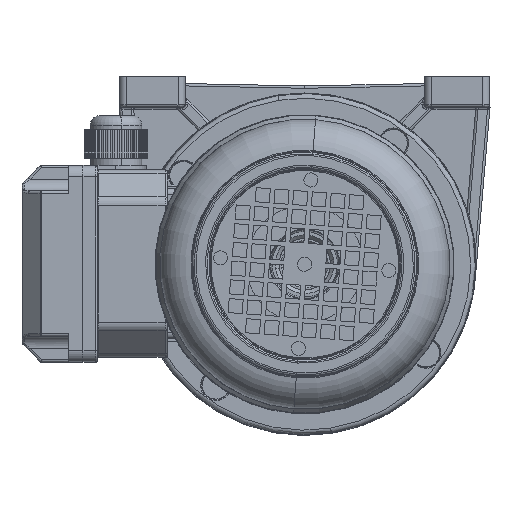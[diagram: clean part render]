
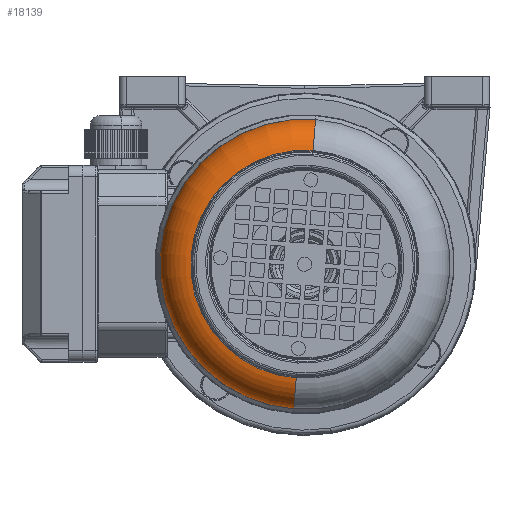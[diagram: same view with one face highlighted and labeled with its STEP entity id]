
A CAD part, front view. The second image highlights one B-rep face of the part: STEP entity #18139.
In plain terms, the highlighted toroidal (fillet/blend) face has major radius 46.75 mm and minor radius 15 mm.
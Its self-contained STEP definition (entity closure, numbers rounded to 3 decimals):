
#541 = EDGE_CURVE ( 'NONE', #35643, #96208, #33922, .T. ) ;
#1495 = VERTEX_POINT ( 'NONE', #9103 ) ;
#2971 = CARTESIAN_POINT ( 'NONE',  ( 11407.538, -26592.948, 48.591 ) ) ;
#7639 = AXIS2_PLACEMENT_3D ( 'NONE', #96935, #29114, #59288 ) ;
#8592 = CARTESIAN_POINT ( 'NONE',  ( 11392.652, -26592.948, -61.75 ) ) ;
#9103 = CARTESIAN_POINT ( 'NONE',  ( 11407.538, -26592.948, -48.591 ) ) ;
#9105 = AXIS2_PLACEMENT_3D ( 'NONE', #44313, #45269, #75947 ) ;
#11879 = EDGE_CURVE ( 'NONE', #83894, #96208, #86619, .T. ) ;
#15572 = FACE_OUTER_BOUND ( 'NONE', #56858, .T. ) ;
#17512 = CARTESIAN_POINT ( 'NONE',  ( 11407.538, -26592.948, 0. ) ) ;
#18139 = ADVANCED_FACE ( 'NONE', ( #15572 ), #84901, .T. ) ;
#18392 = ORIENTED_EDGE ( 'NONE', *, *, #11879, .T. ) ;
#18834 = DIRECTION ( 'NONE',  ( -1., 0., 0. ) ) ;
#21448 = DIRECTION ( 'NONE',  ( 0., -1., 0. ) ) ;
#25004 = AXIS2_PLACEMENT_3D ( 'NONE', #17512, #62537, #25412 ) ;
#25412 = DIRECTION ( 'NONE',  ( 0., 0., 1. ) ) ;
#29114 = DIRECTION ( 'NONE',  ( 0., 1., 0. ) ) ;
#33922 = CIRCLE ( 'NONE', #95541, 61.75 ) ;
#34388 = CARTESIAN_POINT ( 'NONE',  ( 11392.652, -26592.948, 61.75 ) ) ;
#35643 = VERTEX_POINT ( 'NONE', #8592 ) ;
#39328 = EDGE_CURVE ( 'NONE', #1495, #35643, #86678, .T. ) ;
#43978 = AXIS2_PLACEMENT_3D ( 'NONE', #58059, #21448, #96212 ) ;
#44313 = CARTESIAN_POINT ( 'NONE',  ( 11392.652, -26592.948, 0. ) ) ;
#45269 = DIRECTION ( 'NONE',  ( -1., 0., 0. ) ) ;
#49487 = DIRECTION ( 'NONE',  ( 0., 0., 1. ) ) ;
#56858 = EDGE_LOOP ( 'NONE', ( #78443, #94650, #18392, #93974 ) ) ;
#58059 = CARTESIAN_POINT ( 'NONE',  ( 11392.652, -26592.948, 46.75 ) ) ;
#59288 = DIRECTION ( 'NONE',  ( 0., 0., 1. ) ) ;
#62537 = DIRECTION ( 'NONE',  ( -1., 0., 0. ) ) ;
#62593 = EDGE_CURVE ( 'NONE', #1495, #83894, #91411, .T. ) ;
#75947 = DIRECTION ( 'NONE',  ( 0., 0., 1. ) ) ;
#78443 = ORIENTED_EDGE ( 'NONE', *, *, #39328, .F. ) ;
#83894 = VERTEX_POINT ( 'NONE', #2971 ) ;
#84901 = TOROIDAL_SURFACE ( 'NONE', #9105, 46.75, 15. ) ;
#86619 = CIRCLE ( 'NONE', #43978, 15. ) ;
#86678 = CIRCLE ( 'NONE', #7639, 15. ) ;
#91411 = CIRCLE ( 'NONE', #25004, 48.591 ) ;
#93974 = ORIENTED_EDGE ( 'NONE', *, *, #541, .F. ) ;
#94650 = ORIENTED_EDGE ( 'NONE', *, *, #62593, .T. ) ;
#95028 = CARTESIAN_POINT ( 'NONE',  ( 11392.652, -26592.948, 0. ) ) ;
#95541 = AXIS2_PLACEMENT_3D ( 'NONE', #95028, #18834, #49487 ) ;
#96208 = VERTEX_POINT ( 'NONE', #34388 ) ;
#96212 = DIRECTION ( 'NONE',  ( 0., 0., -1. ) ) ;
#96935 = CARTESIAN_POINT ( 'NONE',  ( 11392.652, -26592.948, -46.75 ) ) ;
